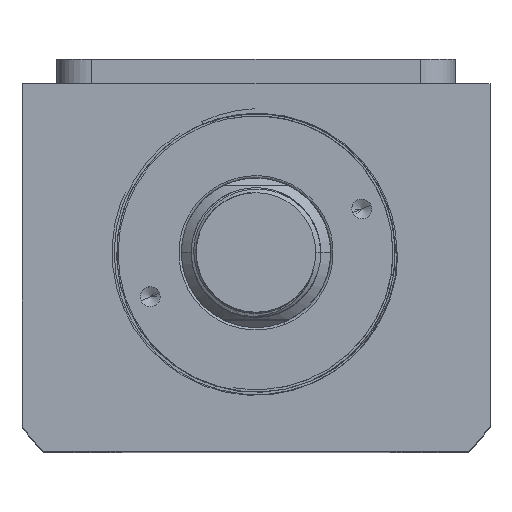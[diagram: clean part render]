
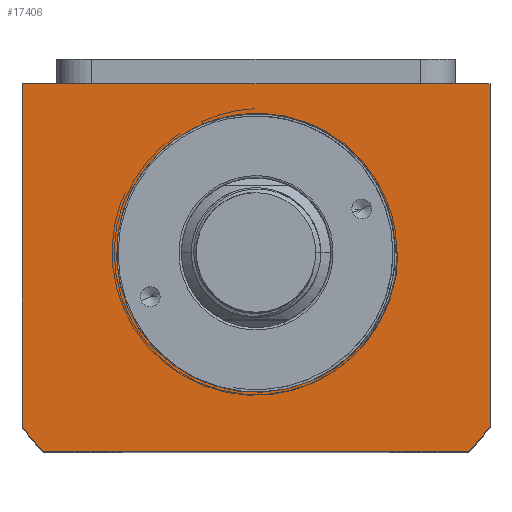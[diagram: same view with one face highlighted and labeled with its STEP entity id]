
A CAD part, top view. The second image highlights one B-rep face of the part: STEP entity #17406.
In plain terms, the highlighted planar face has unit normal (0, 0, 1).
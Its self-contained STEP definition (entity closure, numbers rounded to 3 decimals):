
#215 = EDGE_CURVE ( 'NONE', #8979, #2591, #2468, .T. ) ;
#413 = DIRECTION ( 'NONE',  ( 0., 0., -1. ) ) ;
#900 = CARTESIAN_POINT ( 'NONE',  ( 10.232, -26.064, 57.5 ) ) ;
#1074 = CARTESIAN_POINT ( 'NONE',  ( 10.89, -25.816, 57.5 ) ) ;
#1357 = EDGE_CURVE ( 'NONE', #18072, #5090, #1400, .T. ) ;
#1400 = CIRCLE ( 'NONE', #12827, 28. ) ;
#1489 = FACE_BOUND ( 'NONE', #6999, .T. ) ;
#1519 = VECTOR ( 'NONE', #13515, 1000. ) ;
#1728 = CARTESIAN_POINT ( 'NONE',  ( -47., 34., 57.5 ) ) ;
#1993 = LINE ( 'NONE', #19437, #1519 ) ;
#2155 = CARTESIAN_POINT ( 'NONE',  ( 47., -34.832, 57.5 ) ) ;
#2441 = CARTESIAN_POINT ( 'NONE',  ( 28.485, -0.71, 57.5 ) ) ;
#2468 = LINE ( 'NONE', #1728, #10537 ) ;
#2591 = VERTEX_POINT ( 'NONE', #6503 ) ;
#2719 = B_SPLINE_CURVE_WITH_KNOTS ( 'NONE', 3,
 ( #11585, #2441, #14530, #4089, #14601, #17484, #7018, #8405, #14665, #5390, #3895, #9944, #14402, #5527, #16104, #10141, #7082, #17551, #8603, #8676, #16174, #3828, #1074, #900 ),
 .UNSPECIFIED., .F., .F.,
 ( 4, 2, 2, 2, 2, 2, 2, 2, 2, 2, 2, 4 ),
 ( 0., 0.002, 0.004, 0.009, 0.013, 0.017, 0.021, 0.023, 0.026, 0.03, 0.032, 0.034 ),
 .UNSPECIFIED. ) ;
#2751 = PLANE ( 'NONE',  #17353 ) ;
#2788 = DIRECTION ( 'NONE',  ( 0., -1., 0. ) ) ;
#2983 = EDGE_LOOP ( 'NONE', ( #10512, #18090, #16184, #9134, #19089, #18315 ) ) ;
#3138 = EDGE_CURVE ( 'NONE', #7448, #5090, #7266, .T. ) ;
#3828 = CARTESIAN_POINT ( 'NONE',  ( 11.542, -25.544, 57.5 ) ) ;
#3895 = CARTESIAN_POINT ( 'NONE',  ( 24.178, -14.712, 57.5 ) ) ;
#4089 = CARTESIAN_POINT ( 'NONE',  ( 28.323, -2.832, 57.5 ) ) ;
#4296 = CARTESIAN_POINT ( 'NONE',  ( 0., 0., 57.5 ) ) ;
#4840 = DIRECTION ( 'NONE',  ( 1., 0., 0. ) ) ;
#5090 = VERTEX_POINT ( 'NONE', #19354 ) ;
#5390 = CARTESIAN_POINT ( 'NONE',  ( 24.898, -13.504, 57.5 ) ) ;
#5397 = AXIS2_PLACEMENT_3D ( 'NONE', #8054, #7918, #18527 ) ;
#5527 = CARTESIAN_POINT ( 'NONE',  ( 20.224, -19.631, 57.5 ) ) ;
#5623 = EDGE_CURVE ( 'NONE', #14498, #17342, #9822, .T. ) ;
#5824 = DIRECTION ( 'NONE',  ( -1., 0., 0. ) ) ;
#5848 = CARTESIAN_POINT ( 'NONE',  ( 10.232, -26.064, 57.5 ) ) ;
#6503 = CARTESIAN_POINT ( 'NONE',  ( -47., 34., 57.5 ) ) ;
#6686 = LINE ( 'NONE', #10438, #16828 ) ;
#6999 = EDGE_LOOP ( 'NONE', ( #17543, #9469, #7447 ) ) ;
#7018 = CARTESIAN_POINT ( 'NONE',  ( 27.555, -6.99, 57.5 ) ) ;
#7082 = CARTESIAN_POINT ( 'NONE',  ( 18.129, -21.529, 57.5 ) ) ;
#7266 = LINE ( 'NONE', #4296, #13631 ) ;
#7447 = ORIENTED_EDGE ( 'NONE', *, *, #1357, .T. ) ;
#7448 = VERTEX_POINT ( 'NONE', #9461 ) ;
#7918 = DIRECTION ( 'NONE',  ( 0., 0., 1. ) ) ;
#7997 = VERTEX_POINT ( 'NONE', #12601 ) ;
#8054 = CARTESIAN_POINT ( 'NONE',  ( 0., 0., 57.5 ) ) ;
#8058 = EDGE_CURVE ( 'NONE', #7997, #11912, #14945, .T. ) ;
#8405 = CARTESIAN_POINT ( 'NONE',  ( 26.694, -9.657, 57.5 ) ) ;
#8603 = CARTESIAN_POINT ( 'NONE',  ( 15.3, -23.593, 57.5 ) ) ;
#8676 = CARTESIAN_POINT ( 'NONE',  ( 13.459, -24.624, 57.5 ) ) ;
#8811 = DIRECTION ( 'NONE',  ( 0., 0., 1. ) ) ;
#8979 = VERTEX_POINT ( 'NONE', #14912 ) ;
#9134 = ORIENTED_EDGE ( 'NONE', *, *, #13386, .T. ) ;
#9461 = CARTESIAN_POINT ( 'NONE',  ( 28.495, 0., 57.5 ) ) ;
#9469 = ORIENTED_EDGE ( 'NONE', *, *, #10931, .T. ) ;
#9568 = CARTESIAN_POINT ( 'NONE',  ( 0., 0., 57.5 ) ) ;
#9822 = CIRCLE ( 'NONE', #14396, 58.5 ) ;
#9944 = CARTESIAN_POINT ( 'NONE',  ( 22.571, -17.007, 57.5 ) ) ;
#10141 = CARTESIAN_POINT ( 'NONE',  ( 18.667, -21.077, 57.5 ) ) ;
#10186 = LINE ( 'NONE', #11651, #17685 ) ;
#10350 = DIRECTION ( 'NONE',  ( 1., 0., 0. ) ) ;
#10438 = CARTESIAN_POINT ( 'NONE',  ( 47., 34., 57.5 ) ) ;
#10512 = ORIENTED_EDGE ( 'NONE', *, *, #215, .T. ) ;
#10537 = VECTOR ( 'NONE', #12300, 1000. ) ;
#10716 = FACE_OUTER_BOUND ( 'NONE', #2983, .T. ) ;
#10931 = EDGE_CURVE ( 'NONE', #7448, #18072, #2719, .T. ) ;
#11585 = CARTESIAN_POINT ( 'NONE',  ( 28.495, 0., 57.5 ) ) ;
#11651 = CARTESIAN_POINT ( 'NONE',  ( -47., -34.832, 57.5 ) ) ;
#11691 = EDGE_CURVE ( 'NONE', #2591, #7997, #10186, .T. ) ;
#11912 = VERTEX_POINT ( 'NONE', #12544 ) ;
#12300 = DIRECTION ( 'NONE',  ( -1., 0., 0. ) ) ;
#12544 = CARTESIAN_POINT ( 'NONE',  ( -42.688, -40., 57.5 ) ) ;
#12601 = CARTESIAN_POINT ( 'NONE',  ( -47., -34.832, 57.5 ) ) ;
#12827 = AXIS2_PLACEMENT_3D ( 'NONE', #9568, #413, #4840 ) ;
#12991 = CARTESIAN_POINT ( 'NONE',  ( 42.688, -40., 57.5 ) ) ;
#13379 = DIRECTION ( 'NONE',  ( 1., 0., 0. ) ) ;
#13386 = EDGE_CURVE ( 'NONE', #11912, #14498, #1993, .T. ) ;
#13515 = DIRECTION ( 'NONE',  ( 1., 0., 0. ) ) ;
#13631 = VECTOR ( 'NONE', #5824, 1000. ) ;
#14396 = AXIS2_PLACEMENT_3D ( 'NONE', #17843, #8811, #10350 ) ;
#14402 = CARTESIAN_POINT ( 'NONE',  ( 21.684, -18.094, 57.5 ) ) ;
#14498 = VERTEX_POINT ( 'NONE', #12991 ) ;
#14530 = CARTESIAN_POINT ( 'NONE',  ( 28.449, -1.419, 57.5 ) ) ;
#14601 = CARTESIAN_POINT ( 'NONE',  ( 28.233, -3.538, 57.5 ) ) ;
#14665 = CARTESIAN_POINT ( 'NONE',  ( 26.163, -10.961, 57.5 ) ) ;
#14912 = CARTESIAN_POINT ( 'NONE',  ( 47., 34., 57.5 ) ) ;
#14945 = CIRCLE ( 'NONE', #5397, 58.5 ) ;
#15023 = CARTESIAN_POINT ( 'NONE',  ( 0., 0., 57.5 ) ) ;
#16104 = CARTESIAN_POINT ( 'NONE',  ( 19.714, -20.129, 57.5 ) ) ;
#16174 = CARTESIAN_POINT ( 'NONE',  ( 12.831, -24.945, 57.5 ) ) ;
#16184 = ORIENTED_EDGE ( 'NONE', *, *, #8058, .T. ) ;
#16555 = EDGE_CURVE ( 'NONE', #17342, #8979, #6686, .T. ) ;
#16828 = VECTOR ( 'NONE', #19420, 1000. ) ;
#17342 = VERTEX_POINT ( 'NONE', #2155 ) ;
#17353 = AXIS2_PLACEMENT_3D ( 'NONE', #15023, #17995, #13379 ) ;
#17406 = ADVANCED_FACE ( 'NONE', ( #1489, #10716 ), #2751, .T. ) ;
#17484 = CARTESIAN_POINT ( 'NONE',  ( 27.887, -5.628, 57.5 ) ) ;
#17543 = ORIENTED_EDGE ( 'NONE', *, *, #3138, .F. ) ;
#17551 = CARTESIAN_POINT ( 'NONE',  ( 16.467, -22.819, 57.5 ) ) ;
#17685 = VECTOR ( 'NONE', #2788, 1000. ) ;
#17843 = CARTESIAN_POINT ( 'NONE',  ( 0., 0., 57.5 ) ) ;
#17995 = DIRECTION ( 'NONE',  ( 0., 0., 1. ) ) ;
#18072 = VERTEX_POINT ( 'NONE', #5848 ) ;
#18090 = ORIENTED_EDGE ( 'NONE', *, *, #11691, .T. ) ;
#18315 = ORIENTED_EDGE ( 'NONE', *, *, #16555, .T. ) ;
#18527 = DIRECTION ( 'NONE',  ( 1., 0., 0. ) ) ;
#19089 = ORIENTED_EDGE ( 'NONE', *, *, #5623, .T. ) ;
#19354 = CARTESIAN_POINT ( 'NONE',  ( 28., 0., 57.5 ) ) ;
#19420 = DIRECTION ( 'NONE',  ( 0., 1., 0. ) ) ;
#19437 = CARTESIAN_POINT ( 'NONE',  ( 42.688, -40., 57.5 ) ) ;
